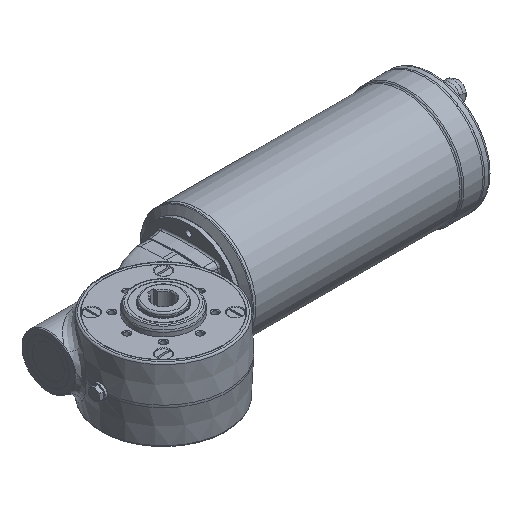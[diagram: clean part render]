
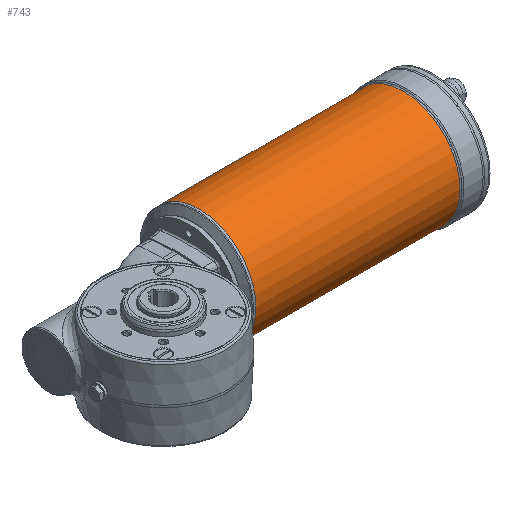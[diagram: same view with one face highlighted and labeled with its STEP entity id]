
A CAD part, isometric view. The second image highlights one B-rep face of the part: STEP entity #743.
In plain terms, the highlighted cylindrical face has radius 69.5 mm (diameter 139 mm), a full revolution.
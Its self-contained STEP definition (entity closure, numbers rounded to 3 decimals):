
#743 = ADVANCED_FACE( '', ( #1993, #1994 ), #1995, .T. );
#1993 = FACE_OUTER_BOUND( '', #4757, .T. );
#1994 = FACE_OUTER_BOUND( '', #4758, .T. );
#1995 = CYLINDRICAL_SURFACE( '', #4759, 69.5 );
#4757 = EDGE_LOOP( '', ( #11797 ) );
#4758 = EDGE_LOOP( '', ( #11798 ) );
#4759 = AXIS2_PLACEMENT_3D( '', #11799, #11800, #11801 );
#11797 = ORIENTED_EDGE( '', *, *, #15592, .T. );
#11798 = ORIENTED_EDGE( '', *, *, #15593, .T. );
#11799 = CARTESIAN_POINT( '', ( 267.168, 63., 0. ) );
#11800 = DIRECTION( '', ( -1., 0., 0. ) );
#11801 = DIRECTION( '', ( 0., 0., 1. ) );
#15592 = EDGE_CURVE( '', #17413, #17413, #17414, .F. );
#15593 = EDGE_CURVE( '', #17415, #17415, #17416, .T. );
#17413 = VERTEX_POINT( '', #20753 );
#17414 = CIRCLE( '', #20754, 69.5 );
#17415 = VERTEX_POINT( '', #20755 );
#17416 = CIRCLE( '', #20756, 69.5 );
#20753 = CARTESIAN_POINT( '', ( 357.672, 63., 69.5 ) );
#20754 = AXIS2_PLACEMENT_3D( '', #24747, #24748, #24749 );
#20755 = CARTESIAN_POINT( '', ( 107., 63., 69.5 ) );
#20756 = AXIS2_PLACEMENT_3D( '', #24750, #24751, #24752 );
#24747 = CARTESIAN_POINT( '', ( 357.672, 63., 0. ) );
#24748 = DIRECTION( '', ( 1., 0., 0. ) );
#24749 = DIRECTION( '', ( 0., 0., 1. ) );
#24750 = CARTESIAN_POINT( '', ( 107., 63., 0. ) );
#24751 = DIRECTION( '', ( 1., 0., 0. ) );
#24752 = DIRECTION( '', ( 0., 0., 1. ) );
